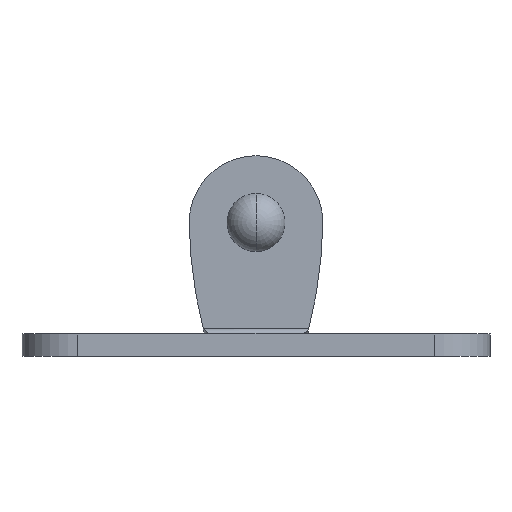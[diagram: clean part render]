
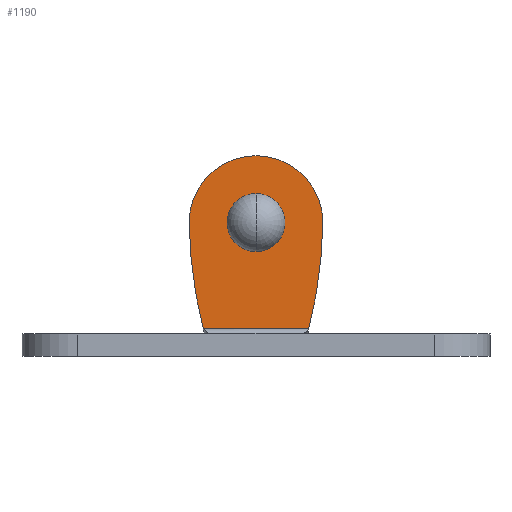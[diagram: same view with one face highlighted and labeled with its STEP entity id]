
A CAD part, front view. The second image highlights one B-rep face of the part: STEP entity #1190.
In plain terms, the highlighted planar face has unit normal (0, -1, 0).
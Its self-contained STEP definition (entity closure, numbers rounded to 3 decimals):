
#74 = CARTESIAN_POINT ( 'NONE',  ( -16., 3.5, 12. ) ) ;
#75 = DIRECTION ( 'NONE',  ( 0., -1., 0. ) ) ;
#76 = DIRECTION ( 'NONE',  ( 0., 0., 1. ) ) ;
#218 = DIRECTION ( 'NONE',  ( 1., 0., 0. ) ) ;
#219 = DIRECTION ( 'NONE',  ( 0., -1., 0. ) ) ;
#220 = CARTESIAN_POINT ( 'NONE',  ( -16., 3.5, 12. ) ) ;
#223 = DIRECTION ( 'NONE',  ( -1., 0., 0. ) ) ;
#224 = DIRECTION ( 'NONE',  ( 0., -1., 0. ) ) ;
#225 = CARTESIAN_POINT ( 'NONE',  ( -49.996, 3.5, 12.5 ) ) ;
#228 = DIRECTION ( 'NONE',  ( 1., 0., 0. ) ) ;
#233 = LINE ( 'NONE', #239, #1320 ) ;
#239 = CARTESIAN_POINT ( 'NONE',  ( -32., 3.5, 2.5 ) ) ;
#256 = DIRECTION ( 'NONE',  ( 0., 0., 1. ) ) ;
#257 = DIRECTION ( 'NONE',  ( 0., -1., 0. ) ) ;
#259 = CARTESIAN_POINT ( 'NONE',  ( -16., 3.5, 12. ) ) ;
#293 = DIRECTION ( 'NONE',  ( 1., 0., 0. ) ) ;
#294 = DIRECTION ( 'NONE',  ( 0., -1., 0. ) ) ;
#295 = CARTESIAN_POINT ( 'NONE',  ( 17.996, 3.5, 12.5 ) ) ;
#304 = DIRECTION ( 'NONE',  ( 1., 0., 0. ) ) ;
#305 = DIRECTION ( 'NONE',  ( 0., -1., 0. ) ) ;
#306 = CARTESIAN_POINT ( 'NONE',  ( -16., 3.5, 12. ) ) ;
#341 = CARTESIAN_POINT ( 'NONE',  ( -20.734, 3.5, 2.5 ) ) ;
#349 = CARTESIAN_POINT ( 'NONE',  ( -16., 3.5, 14.6 ) ) ;
#351 = CARTESIAN_POINT ( 'NONE',  ( -16., 3.5, 9.4 ) ) ;
#366 = CARTESIAN_POINT ( 'NONE',  ( -21.999, 3.5, 11.912 ) ) ;
#372 = CARTESIAN_POINT ( 'NONE',  ( -10., 3.5, 12. ) ) ;
#373 = CARTESIAN_POINT ( 'NONE',  ( -22., 3.5, 12. ) ) ;
#375 = CARTESIAN_POINT ( 'NONE',  ( -10.001, 3.5, 11.912 ) ) ;
#379 = CARTESIAN_POINT ( 'NONE',  ( -11.266, 3.5, 2.5 ) ) ;
#472 = VERTEX_POINT ( 'NONE', #379 ) ;
#476 = VERTEX_POINT ( 'NONE', #375 ) ;
#478 = VERTEX_POINT ( 'NONE', #373 ) ;
#479 = VERTEX_POINT ( 'NONE', #372 ) ;
#485 = VERTEX_POINT ( 'NONE', #366 ) ;
#500 = VERTEX_POINT ( 'NONE', #351 ) ;
#502 = VERTEX_POINT ( 'NONE', #349 ) ;
#510 = VERTEX_POINT ( 'NONE', #341 ) ;
#570 = ORIENTED_EDGE ( 'NONE', *, *, #727, .F. ) ;
#571 = ORIENTED_EDGE ( 'NONE', *, *, #1168, .F. ) ;
#572 = ORIENTED_EDGE ( 'NONE', *, *, #736, .T. ) ;
#573 = ORIENTED_EDGE ( 'NONE', *, *, #1213, .T. ) ;
#574 = ORIENTED_EDGE ( 'NONE', *, *, #716, .T. ) ;
#575 = ORIENTED_EDGE ( 'NONE', *, *, #735, .T. ) ;
#576 = ORIENTED_EDGE ( 'NONE', *, *, #734, .T. ) ;
#577 = ORIENTED_EDGE ( 'NONE', *, *, #720, .T. ) ;
#636 = EDGE_LOOP ( 'NONE', ( #571, #570 ) ) ;
#640 = EDGE_LOOP ( 'NONE', ( #577, #576, #575, #574, #573, #572 ) ) ;
#716 = EDGE_CURVE ( 'NONE', #476, #479, #1322, .T. ) ;
#720 = EDGE_CURVE ( 'NONE', #485, #510, #1366, .T. ) ;
#727 = EDGE_CURVE ( 'NONE', #502, #500, #1427, .T. ) ;
#734 = EDGE_CURVE ( 'NONE', #510, #472, #233, .T. ) ;
#735 = EDGE_CURVE ( 'NONE', #472, #476, #1423, .T. ) ;
#736 = EDGE_CURVE ( 'NONE', #478, #485, #1422, .T. ) ;
#1008 = CARTESIAN_POINT ( 'NONE',  ( -32., 3.5, 0.144 ) ) ;
#1009 = FACE_BOUND ( 'NONE', #636, .T. ) ;
#1012 = FACE_OUTER_BOUND ( 'NONE', #640, .T. ) ;
#1013 = PLANE ( 'NONE',  #1256 ) ;
#1015 = DIRECTION ( 'NONE',  ( 0., 1., 0. ) ) ;
#1016 = DIRECTION ( 'NONE',  ( -1., 0., 0. ) ) ;
#1050 = CARTESIAN_POINT ( 'NONE',  ( -16., 3.5, 12. ) ) ;
#1051 = DIRECTION ( 'NONE',  ( 0., -1., 0. ) ) ;
#1052 = DIRECTION ( 'NONE',  ( 1., 0., 0. ) ) ;
#1168 = EDGE_CURVE ( 'NONE', #500, #502, #1285, .T. ) ;
#1190 = ADVANCED_FACE ( 'NONE', ( #1012, #1009 ), #1013, .F. ) ;
#1213 = EDGE_CURVE ( 'NONE', #479, #478, #1244, .T. ) ;
#1242 = AXIS2_PLACEMENT_3D ( 'NONE', #1050, #1051, #1052 ) ;
#1244 = CIRCLE ( 'NONE', #1242, 6. ) ;
#1256 = AXIS2_PLACEMENT_3D ( 'NONE', #1008, #1015, #1016 ) ;
#1281 = AXIS2_PLACEMENT_3D ( 'NONE', #74, #75, #76 ) ;
#1285 = CIRCLE ( 'NONE', #1281, 2.6 ) ;
#1320 = VECTOR ( 'NONE', #228, 1000. ) ;
#1322 = CIRCLE ( 'NONE', #1383, 6. ) ;
#1366 = CIRCLE ( 'NONE', #1438, 40. ) ;
#1383 = AXIS2_PLACEMENT_3D ( 'NONE', #306, #305, #304 ) ;
#1392 = AXIS2_PLACEMENT_3D ( 'NONE', #259, #257, #256 ) ;
#1419 = AXIS2_PLACEMENT_3D ( 'NONE', #220, #219, #218 ) ;
#1421 = AXIS2_PLACEMENT_3D ( 'NONE', #225, #224, #223 ) ;
#1422 = CIRCLE ( 'NONE', #1419, 6. ) ;
#1423 = CIRCLE ( 'NONE', #1421, 40. ) ;
#1427 = CIRCLE ( 'NONE', #1392, 2.6 ) ;
#1438 = AXIS2_PLACEMENT_3D ( 'NONE', #295, #294, #293 ) ;
